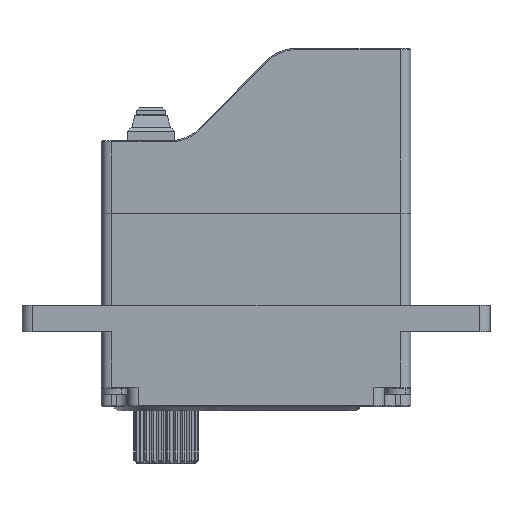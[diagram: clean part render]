
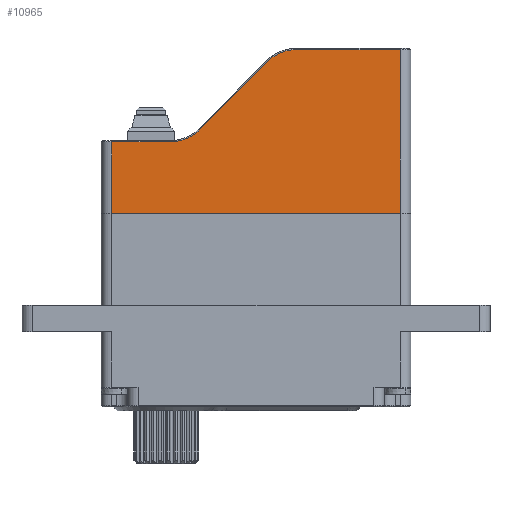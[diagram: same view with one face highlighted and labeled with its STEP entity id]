
A CAD part, front view. The second image highlights one B-rep face of the part: STEP entity #10965.
In plain terms, the highlighted planar face has unit normal (0, -1, 0).
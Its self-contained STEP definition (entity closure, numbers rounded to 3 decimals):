
#614 = EDGE_LOOP ( 'NONE', ( #12909, #17939, #26903, #15223, #10179, #2939, #24607, #10361 ) ) ;
#819 = CARTESIAN_POINT ( 'NONE',  ( -116.945, -6.937, 11.208 ) ) ;
#881 = VERTEX_POINT ( 'NONE', #19925 ) ;
#1113 = CIRCLE ( 'NONE', #11721, 3.1 ) ;
#1529 = VERTEX_POINT ( 'NONE', #30527 ) ;
#1939 = FACE_OUTER_BOUND ( 'NONE', #614, .T. ) ;
#1976 = VERTEX_POINT ( 'NONE', #5401 ) ;
#2257 = CIRCLE ( 'NONE', #28613, 2.9 ) ;
#2539 = VECTOR ( 'NONE', #22883, 1000. ) ;
#2939 = ORIENTED_EDGE ( 'NONE', *, *, #17067, .T. ) ;
#3295 = LINE ( 'NONE', #12813, #2539 ) ;
#3699 = DIRECTION ( 'NONE',  ( 0., 0., -1. ) ) ;
#3873 = LINE ( 'NONE', #28449, #22078 ) ;
#4803 = EDGE_CURVE ( 'NONE', #1976, #20905, #3295, .T. ) ;
#5401 = CARTESIAN_POINT ( 'NONE',  ( -111.702, -6.937, 16.451 ) ) ;
#5696 = VECTOR ( 'NONE', #26529, 1000. ) ;
#6069 = DIRECTION ( 'NONE',  ( 0., -1., 0. ) ) ;
#6396 = DIRECTION ( 'NONE',  ( 0., 0., -1. ) ) ;
#7725 = DIRECTION ( 'NONE',  ( 0., 1., 0. ) ) ;
#8015 = LINE ( 'NONE', #24289, #5696 ) ;
#8889 = DIRECTION ( 'NONE',  ( 0., 1., 0. ) ) ;
#9196 = CARTESIAN_POINT ( 'NONE',  ( -109.652, -6.937, 17.3 ) ) ;
#9939 = LINE ( 'NONE', #21716, #25013 ) ;
#10179 = ORIENTED_EDGE ( 'NONE', *, *, #20682, .T. ) ;
#10361 = ORIENTED_EDGE ( 'NONE', *, *, #20515, .T. ) ;
#10965 = ADVANCED_FACE ( 'NONE', ( #1939 ), #28553, .F. ) ;
#11462 = LINE ( 'NONE', #14828, #15376 ) ;
#11721 = AXIS2_PLACEMENT_3D ( 'NONE', #22680, #7725, #29938 ) ;
#12187 = EDGE_CURVE ( 'NONE', #20905, #19387, #1113, .T. ) ;
#12813 = CARTESIAN_POINT ( 'NONE',  ( -112.073, -6.937, 16.079 ) ) ;
#12909 = ORIENTED_EDGE ( 'NONE', *, *, #23783, .T. ) ;
#13743 = CARTESIAN_POINT ( 'NONE',  ( -123.594, -6.937, 4.9 ) ) ;
#14431 = LINE ( 'NONE', #13743, #14815 ) ;
#14815 = VECTOR ( 'NONE', #6396, 1000. ) ;
#14828 = CARTESIAN_POINT ( 'NONE',  ( -123.594, -6.937, 10.3 ) ) ;
#15223 = ORIENTED_EDGE ( 'NONE', *, *, #12187, .T. ) ;
#15376 = VECTOR ( 'NONE', #17193, 1000. ) ;
#15678 = EDGE_CURVE ( 'NONE', #21882, #1976, #2257, .T. ) ;
#15839 = CARTESIAN_POINT ( 'NONE',  ( -109.652, -6.937, 14.4 ) ) ;
#15949 = DIRECTION ( 'NONE',  ( -1., 0., 0. ) ) ;
#16492 = CARTESIAN_POINT ( 'NONE',  ( -123.594, -6.937, 4.9 ) ) ;
#16729 = VERTEX_POINT ( 'NONE', #16492 ) ;
#17067 = EDGE_CURVE ( 'NONE', #31816, #16729, #14431, .T. ) ;
#17193 = DIRECTION ( 'NONE',  ( -1., 0., 0. ) ) ;
#17939 = ORIENTED_EDGE ( 'NONE', *, *, #15678, .T. ) ;
#19387 = VERTEX_POINT ( 'NONE', #25086 ) ;
#19925 = CARTESIAN_POINT ( 'NONE',  ( -101.694, -6.937, 4.9 ) ) ;
#19977 = AXIS2_PLACEMENT_3D ( 'NONE', #31156, #8889, #23821 ) ;
#20515 = EDGE_CURVE ( 'NONE', #881, #1529, #9939, .T. ) ;
#20682 = EDGE_CURVE ( 'NONE', #19387, #31816, #11462, .T. ) ;
#20905 = VERTEX_POINT ( 'NONE', #819 ) ;
#21716 = CARTESIAN_POINT ( 'NONE',  ( -101.694, -6.937, 4.9 ) ) ;
#21882 = VERTEX_POINT ( 'NONE', #9196 ) ;
#22078 = VECTOR ( 'NONE', #15949, 1000. ) ;
#22680 = CARTESIAN_POINT ( 'NONE',  ( -119.137, -6.937, 13.4 ) ) ;
#22883 = DIRECTION ( 'NONE',  ( -0.707, 0., -0.707 ) ) ;
#23783 = EDGE_CURVE ( 'NONE', #1529, #21882, #8015, .T. ) ;
#23821 = DIRECTION ( 'NONE',  ( 0., 0., -1. ) ) ;
#24289 = CARTESIAN_POINT ( 'NONE',  ( -100.894, -6.937, 17.3 ) ) ;
#24607 = ORIENTED_EDGE ( 'NONE', *, *, #30406, .F. ) ;
#25013 = VECTOR ( 'NONE', #28957, 1000. ) ;
#25086 = CARTESIAN_POINT ( 'NONE',  ( -119.137, -6.937, 10.3 ) ) ;
#26529 = DIRECTION ( 'NONE',  ( -1., 0., 0. ) ) ;
#26828 = CARTESIAN_POINT ( 'NONE',  ( -123.594, -6.937, 10.3 ) ) ;
#26903 = ORIENTED_EDGE ( 'NONE', *, *, #4803, .T. ) ;
#28449 = CARTESIAN_POINT ( 'NONE',  ( -100.894, -6.937, 4.9 ) ) ;
#28553 = PLANE ( 'NONE',  #19977 ) ;
#28613 = AXIS2_PLACEMENT_3D ( 'NONE', #15839, #6069, #3699 ) ;
#28957 = DIRECTION ( 'NONE',  ( 0., 0., 1. ) ) ;
#29938 = DIRECTION ( 'NONE',  ( 0., 0., -1. ) ) ;
#30406 = EDGE_CURVE ( 'NONE', #881, #16729, #3873, .T. ) ;
#30527 = CARTESIAN_POINT ( 'NONE',  ( -101.694, -6.937, 17.3 ) ) ;
#31156 = CARTESIAN_POINT ( 'NONE',  ( -100.894, -6.937, 4.9 ) ) ;
#31816 = VERTEX_POINT ( 'NONE', #26828 ) ;
